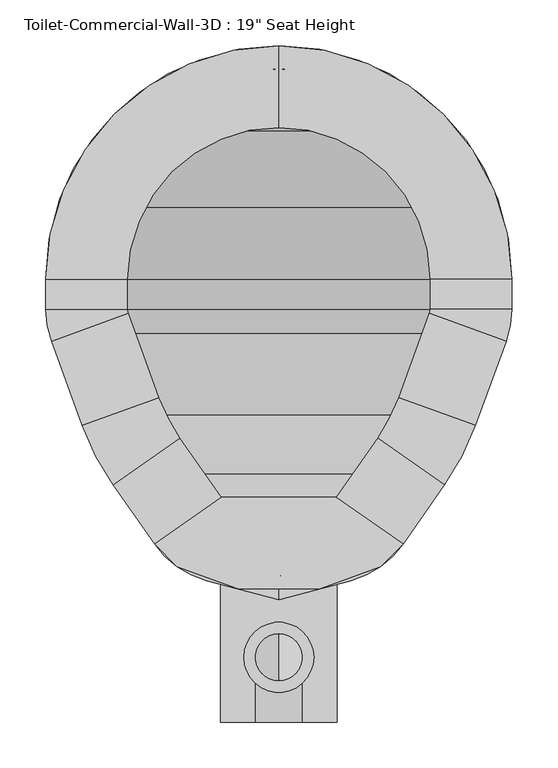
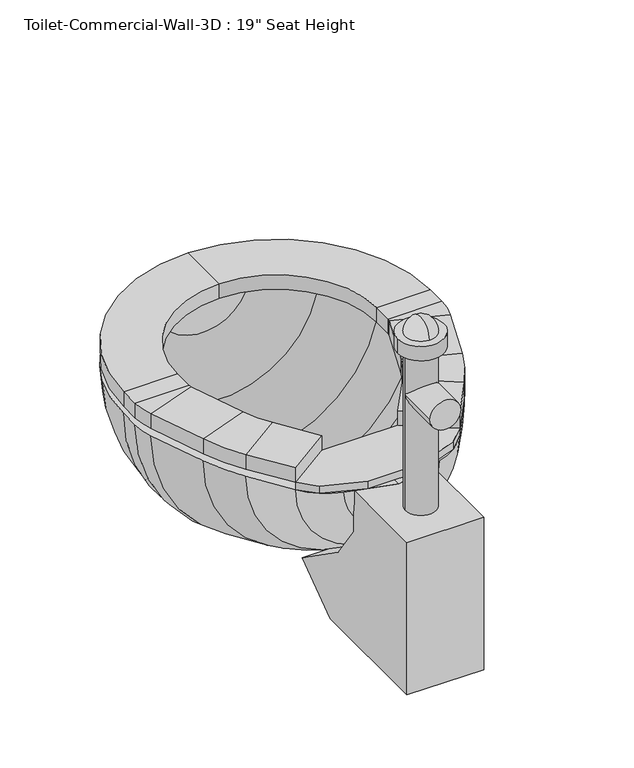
"""IFC4 building model written with IfcOpenShell, lengths in millimetres: flow terminal geometry."""

from ifc_helpers import new_model, si_unit, point, frame, frame_2d, origin, place, context, project, spatial, polyline, circle_curve, ellipse_curve, trimmed, segment, composite_curve, outline, extrude, source, transform, mapped, element, save
from ifc_brep_helpers import plane_surface, cylinder_surface, revolved_surface, advanced_brep


def flow_terminal_ad1f76ec(model_context):
    return source(origin(), model_context, "Body", "SolidModel", [
        extrude(outline(polyline([(467.7541169, 322.8222495), (540.5767337, 271.8313043), (515.6262519, 246.8808226), (449.563909, 222.8360961), (360.2423986, 222.8360961), (294.1800557, 246.8808226), (269.229574, 271.8313043), (342.0521907, 322.8222495), (467.7541169, 322.8222495)])), frame((0.0, 0.0, 444.5), z_axis=(0.0, 0.0, 1.0), x_axis=(1.0, 0.0, 0.0)), (0.0, 0.0, 1.0), 12.7),
        advanced_brep(
        [(467.7541169, 322.8222495, 457.2), (540.5767337, 271.8313043, 457.2), (540.5767337, 271.8313043, 482.6), (467.7541169, 322.8222495, 482.6), (512.8583992, 387.2378403, 457.2), (585.6810159, 336.2468951, 457.2), (585.6810159, 336.2468951, 482.6), (512.8583992, 387.2378403, 482.6), (619.360053, 400.9437234, 457.2), (535.821379, 431.3493141, 457.2), (619.360053, 400.9437234, 482.6), (535.821379, 431.3493141, 482.6), (569.2372501, 523.1586654, 457.2), (652.7759241, 492.7530747, 457.2), (652.7759241, 492.7530747, 482.6), (569.2372501, 523.1586654, 482.6), (658.9031538, 527.5023212, 457.2), (570.0031538, 527.5023212, 457.2), (658.9031538, 527.5023212, 482.6), (570.0031538, 527.5023212, 482.6), (570.0031538, 560.3875, 457.2), (658.9031538, 560.3875, 457.2), (658.9031538, 560.3875, 482.6), (570.0031538, 560.3875, 482.6), (404.9031538, 814.3875, 457.2), (404.9031538, 725.4875, 457.2), (404.9031538, 814.3875, 482.6), (404.9031538, 725.4875, 482.6), (150.9031538, 560.3875, 457.2), (239.8031538, 560.3875, 457.2), (150.9031538, 560.3875, 482.6), (239.8031538, 560.3875, 482.6), (239.8031538, 527.5023212, 457.2), (150.9031538, 527.5023212, 457.2), (150.9031538, 527.5023212, 482.6), (239.8031538, 527.5023212, 482.6), (157.0303835, 492.7530747, 457.2), (240.5690575, 523.1586654, 457.2), (157.0303835, 492.7530747, 482.6), (240.5690575, 523.1586654, 482.6), (273.9849286, 431.3493141, 457.2), (190.4462546, 400.9437234, 457.2), (190.4462546, 400.9437234, 482.6), (273.9849286, 431.3493141, 482.6), (224.1252917, 336.2468951, 457.2), (296.9479084, 387.2378403, 457.2), (224.1252917, 336.2468951, 482.6), (296.9479084, 387.2378403, 482.6), (342.0521907, 322.8222495, 457.2), (342.0521907, 322.8222495, 482.6), (269.229574, 271.8313043, 482.6), (269.229574, 271.8313043, 457.2)],
        [
            (0, 1),
            (1, 2),
            (2, 3),
            (3, 0),
            (0, 4),
            (4, 5),
            (5, 1),
            (5, 6),
            (6, 2),
            (6, 7),
            (7, 3),
            (7, 4),
            (8, 5, circle_curve(frame((356.8099347, 496.5041514, 457.2), z_axis=(0.0, 0.0, -1.0), x_axis=(0.81915204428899, -0.5735764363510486, 0.0)), 279.4)),
            (4, 9, circle_curve(frame((356.8099347, 496.5041514, 457.2), z_axis=(0.0, 0.0, 1.0), x_axis=(0.81915204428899, -0.5735764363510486, 0.0)), 190.5)),
            (9, 8),
            (10, 6, circle_curve(frame((356.8099347, 496.5041514, 482.6), z_axis=(0.0, 0.0, -1.0), x_axis=(0.81915204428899, -0.5735764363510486, 0.0)), 279.4)),
            (8, 10),
            (11, 7, circle_curve(frame((356.8099347, 496.5041514, 482.6), z_axis=(0.0, 0.0, -1.0), x_axis=(0.81915204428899, -0.5735764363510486, 0.0)), 190.5)),
            (10, 11),
            (11, 9),
            (9, 12),
            (12, 13),
            (13, 8),
            (13, 14),
            (14, 10),
            (14, 15),
            (15, 11),
            (15, 12),
            (16, 13, circle_curve(frame((557.3031538, 527.5023212, 457.2), z_axis=(0.0, 0.0, -1.0), x_axis=(0.9396926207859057, -0.3420201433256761, 0.0)), 101.6)),
            (12, 17, circle_curve(frame((557.3031538, 527.5023212, 457.2), z_axis=(0.0, 0.0, 1.0), x_axis=(0.9396926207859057, -0.3420201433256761, 0.0)), 12.7)),
            (17, 16),
            (18, 14, circle_curve(frame((557.3031538, 527.5023212, 482.6), z_axis=(0.0, 0.0, -1.0), x_axis=(0.9396926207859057, -0.3420201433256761, 0.0)), 101.6)),
            (16, 18),
            (19, 15, circle_curve(frame((557.3031538, 527.5023212, 482.6), z_axis=(0.0, 0.0, -1.0), x_axis=(0.9396926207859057, -0.3420201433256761, 0.0)), 12.7)),
            (18, 19),
            (19, 17),
            (17, 20),
            (20, 21),
            (21, 16),
            (21, 22),
            (22, 18),
            (22, 23),
            (23, 19),
            (23, 20),
            (24, 21, circle_curve(frame((404.9031538, 560.3875, 457.2), z_axis=(0.0, 0.0, -1.0), x_axis=(1.0, 0.0, 0.0)), 254.0)),
            (20, 25, circle_curve(frame((404.9031538, 560.3875, 457.2), z_axis=(0.0, 0.0, 1.0), x_axis=(1.0, 0.0, 0.0)), 165.1)),
            (25, 24),
            (26, 22, circle_curve(frame((404.9031538, 560.3875, 482.6), z_axis=(0.0, 0.0, -1.0), x_axis=(1.0, 0.0, 0.0)), 254.0)),
            (24, 26),
            (27, 23, circle_curve(frame((404.9031538, 560.3875, 482.6), z_axis=(0.0, 0.0, -1.0), x_axis=(1.0, 0.0, 0.0)), 165.1)),
            (26, 27),
            (27, 25),
            (28, 24, circle_curve(frame((404.9031538, 560.3875, 457.2), z_axis=(0.0, 0.0, -1.0), x_axis=(0.0, 1.0, 0.0)), 254.0)),
            (25, 29, circle_curve(frame((404.9031538, 560.3875, 457.2), z_axis=(0.0, 0.0, 1.0), x_axis=(0.0, 1.0, 0.0)), 165.1)),
            (29, 28),
            (30, 26, circle_curve(frame((404.9031538, 560.3875, 482.6), z_axis=(0.0, 0.0, -1.0), x_axis=(0.0, 1.0, 0.0)), 254.0)),
            (28, 30),
            (31, 27, circle_curve(frame((404.9031538, 560.3875, 482.6), z_axis=(0.0, 0.0, -1.0), x_axis=(0.0, 1.0, 0.0)), 165.1)),
            (30, 31),
            (31, 29),
            (29, 32),
            (32, 33),
            (33, 28),
            (33, 34),
            (34, 30),
            (34, 35),
            (35, 31),
            (35, 32),
            (36, 33, circle_curve(frame((252.5031538, 527.5023212, 457.2), z_axis=(0.0, 0.0, -1.0), x_axis=(-1.0, 0.0, 0.0)), 101.6)),
            (32, 37, circle_curve(frame((252.5031538, 527.5023212, 457.2), z_axis=(0.0, 0.0, 1.0), x_axis=(-1.0, 0.0, 0.0)), 12.7)),
            (37, 36),
            (38, 34, circle_curve(frame((252.5031538, 527.5023212, 482.6), z_axis=(0.0, 0.0, -1.0), x_axis=(-1.0, 0.0, 0.0)), 101.6)),
            (36, 38),
            (39, 35, circle_curve(frame((252.5031538, 527.5023212, 482.6), z_axis=(0.0, 0.0, -1.0), x_axis=(-1.0, 0.0, 0.0)), 12.7)),
            (38, 39),
            (39, 37),
            (37, 40),
            (40, 41),
            (41, 36),
            (41, 42),
            (42, 38),
            (42, 43),
            (43, 39),
            (43, 40),
            (44, 41, circle_curve(frame((452.9963729, 496.5041514, 457.2), z_axis=(0.0, 0.0, -1.0), x_axis=(-0.939692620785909, -0.3420201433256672, 0.0)), 279.4)),
            (40, 45, circle_curve(frame((452.9963729, 496.5041514, 457.2), z_axis=(0.0, 0.0, 1.0), x_axis=(-0.939692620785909, -0.3420201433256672, 0.0)), 190.5)),
            (45, 44),
            (46, 42, circle_curve(frame((452.9963729, 496.5041514, 482.6), z_axis=(0.0, 0.0, -1.0), x_axis=(-0.939692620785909, -0.3420201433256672, 0.0)), 279.4)),
            (44, 46),
            (47, 43, circle_curve(frame((452.9963729, 496.5041514, 482.6), z_axis=(0.0, 0.0, -1.0), x_axis=(-0.939692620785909, -0.3420201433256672, 0.0)), 190.5)),
            (46, 47),
            (47, 45),
            (48, 49),
            (49, 50),
            (50, 51),
            (51, 48),
            (45, 48),
            (51, 44),
            (50, 46),
            (49, 47),
        ],
        [
            plane_surface(frame((540.5767337, 271.8313043, 541.2203184), z_axis=(-0.5735764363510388, -0.8191520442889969, 0.0), x_axis=(0.8191520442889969, -0.5735764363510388, 0.0))),
            plane_surface(frame((467.7541169, 322.8222495, 457.2), z_axis=(0.0, 0.0, -1.0), x_axis=(0.5735764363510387, 0.8191520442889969, 0.0))),
            plane_surface(frame((540.5767337, 271.8313043, 457.2), z_axis=(0.8191520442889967, -0.5735764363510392, 0.0), x_axis=(0.5735764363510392, 0.8191520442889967, 0.0))),
            plane_surface(frame((540.5767337, 271.8313043, 482.6), z_axis=(0.0, 0.0, 1.0), x_axis=(0.5735764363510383, 0.8191520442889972, 0.0))),
            plane_surface(frame((467.7541169, 322.8222495, 482.6), z_axis=(-0.8191520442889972, 0.5735764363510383, 0.0), x_axis=(0.5735764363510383, 0.8191520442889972, 0.0))),
            plane_surface(frame((356.8099347, 496.5041514, 457.2), z_axis=(0.0, 0.0, -1.0), x_axis=(0.81915204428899, -0.5735764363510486, 0.0))),
            cylinder_surface(frame((356.8099347, 496.5041514, 444.5), z_axis=(0.0, 0.0, 1.0), x_axis=(0.81915204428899, -0.5735764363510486, 0.0)), 279.4),
            plane_surface(frame((356.8099347, 496.5041514, 482.6), z_axis=(0.0, 0.0, 1.0), x_axis=(0.81915204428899, -0.5735764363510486, 0.0))),
            revolved_surface(polyline([(512.8583991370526, 387.2378402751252, 482.6), (512.8583991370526, 387.2378402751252, 457.2)]), (356.8099347, 496.5041514, 444.5), (0.0, 0.0, 1.0)),
            plane_surface(frame((535.821379, 431.3493141, 457.2), z_axis=(0.0, 0.0, -1.0), x_axis=(0.3420201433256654, 0.9396926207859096, 0.0))),
            plane_surface(frame((619.360053, 400.9437234, 457.2), z_axis=(0.9396926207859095, -0.34202014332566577, 0.0), x_axis=(0.34202014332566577, 0.9396926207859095, 0.0))),
            plane_surface(frame((619.360053, 400.9437234, 482.6), z_axis=(0.0, 0.0, 1.0000000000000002), x_axis=(0.34202014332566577, 0.9396926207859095, 0.0))),
            plane_surface(frame((535.821379, 431.3493141, 482.6), z_axis=(-0.9396926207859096, 0.3420201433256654, 0.0), x_axis=(0.3420201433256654, 0.9396926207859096, 0.0))),
            plane_surface(frame((557.3031538, 527.5023212, 457.2), z_axis=(0.0, 0.0, -1.0000000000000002), x_axis=(0.9396926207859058, -0.34202014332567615, 0.0))),
            cylinder_surface(frame((557.3031538, 527.5023212, 444.5), z_axis=(0.0, 0.0, 1.0), x_axis=(0.9396926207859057, -0.3420201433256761, 0.0)), 101.6),
            plane_surface(frame((557.3031538, 527.5023212, 482.6), z_axis=(0.0, 0.0, 1.0000000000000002), x_axis=(0.9396926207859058, -0.34202014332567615, 0.0))),
            revolved_surface(polyline([(569.237250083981, 523.1586653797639, 482.6), (569.237250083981, 523.1586653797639, 457.2)]), (557.3031538, 527.5023212, 444.5), (0.0, 0.0, 1.0)),
            plane_surface(frame((570.0031538, 527.5023212, 457.2), z_axis=(0.0, 0.0, -1.0), x_axis=(0.0, 1.0, 0.0))),
            plane_surface(frame((658.9031538, 527.5023212, 457.2), z_axis=(1.0, 0.0, 0.0), x_axis=(0.0, 1.0, 0.0))),
            plane_surface(frame((658.9031538, 527.5023212, 482.6), z_axis=(0.0, 0.0, 1.0), x_axis=(0.0, 1.0, 0.0))),
            plane_surface(frame((570.0031538, 527.5023212, 482.6), z_axis=(-1.0, 0.0, 0.0), x_axis=(0.0, 1.0, 0.0))),
            plane_surface(frame((404.9031538, 560.3875, 457.2), z_axis=(0.0, 0.0, -1.0), x_axis=(1.0, 0.0, 0.0))),
            cylinder_surface(frame((404.9031538, 560.3875, 444.5), z_axis=(0.0, 0.0, 1.0), x_axis=(1.0, 0.0, 0.0)), 254.0),
            plane_surface(frame((404.9031538, 560.3875, 482.6), z_axis=(0.0, 0.0, 1.0), x_axis=(1.0, 0.0, 0.0))),
            revolved_surface(polyline([(570.0031538, 560.3875, 482.6), (570.0031538, 560.3875, 457.2)]), (404.9031538, 560.3875, 444.5), (0.0, 0.0, 1.0)),
            plane_surface(frame((404.9031538, 560.3875, 457.2), z_axis=(0.0, 0.0, -1.0), x_axis=(0.0, 1.0, 0.0))),
            cylinder_surface(frame((404.9031538, 560.3875, 444.5), z_axis=(0.0, 0.0, 1.0), x_axis=(0.0, 1.0, 0.0)), 254.0),
            plane_surface(frame((404.9031538, 560.3875, 482.6), z_axis=(0.0, 0.0, 1.0), x_axis=(0.0, 1.0, 0.0))),
            revolved_surface(polyline([(404.9031538, 725.4875000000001, 482.6), (404.9031538, 725.4875000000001, 457.2)]), (404.9031538, 560.3875, 444.5), (0.0, 0.0, 1.0)),
            plane_surface(frame((239.8031538, 560.3875, 457.2), z_axis=(0.0, 0.0, -1.0), x_axis=(0.0, -1.0, 0.0))),
            plane_surface(frame((150.9031538, 560.3875, 457.2), z_axis=(-1.0, 0.0, 0.0), x_axis=(0.0, -1.0, 0.0))),
            plane_surface(frame((150.9031538, 560.3875, 482.6), z_axis=(0.0, 0.0, 1.0), x_axis=(0.0, -1.0, 0.0))),
            plane_surface(frame((239.8031538, 560.3875, 482.6), z_axis=(1.0, 0.0, 0.0), x_axis=(0.0, -1.0, 0.0))),
            plane_surface(frame((252.5031538, 527.5023212, 457.2), z_axis=(0.0, 0.0, -1.0), x_axis=(-1.0, 0.0, 0.0))),
            cylinder_surface(frame((252.5031538, 527.5023212, 444.5), z_axis=(0.0, 0.0, 1.0), x_axis=(-1.0, 0.0, 0.0)), 101.6),
            plane_surface(frame((252.5031538, 527.5023212, 482.6), z_axis=(0.0, 0.0, 1.0), x_axis=(-1.0, 0.0, 0.0))),
            revolved_surface(polyline([(239.80315380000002, 527.5023212, 482.6), (239.80315380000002, 527.5023212, 457.2)]), (252.5031538, 527.5023212, 444.5), (0.0, 0.0, 1.0)),
            plane_surface(frame((240.5690575, 523.1586654, 457.2), z_axis=(0.0, 0.0, -1.0), x_axis=(0.34202014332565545, -0.9396926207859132, 0.0))),
            plane_surface(frame((157.0303835, 492.7530747, 457.2), z_axis=(-0.9396926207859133, -0.3420201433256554, 0.0), x_axis=(0.3420201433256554, -0.9396926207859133, 0.0))),
            plane_surface(frame((157.0303835, 492.7530747, 482.6), z_axis=(0.0, 0.0, 1.0), x_axis=(0.342020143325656, -0.9396926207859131, 0.0))),
            plane_surface(frame((240.5690575, 523.1586654, 482.6), z_axis=(0.9396926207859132, 0.34202014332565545, 0.0), x_axis=(0.34202014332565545, -0.9396926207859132, 0.0))),
            plane_surface(frame((452.9963729, 496.5041514, 457.2), z_axis=(0.0, 0.0, -1.0), x_axis=(-0.939692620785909, -0.3420201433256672, 0.0))),
            cylinder_surface(frame((452.9963729, 496.5041514, 444.5), z_axis=(0.0, 0.0, 1.0), x_axis=(-0.939692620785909, -0.3420201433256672, 0.0)), 279.4),
            plane_surface(frame((452.9963729, 496.5041514, 482.6), z_axis=(0.0, 0.0, 1.0), x_axis=(-0.939692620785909, -0.3420201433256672, 0.0))),
            revolved_surface(polyline([(273.98492864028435, 431.3493140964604, 482.6), (273.98492864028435, 431.3493140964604, 457.2)]), (452.9963729, 496.5041514, 444.5), (0.0, 0.0, 1.0)),
            plane_surface(frame((269.229574, 271.8313043, 347.7796816), z_axis=(0.5735764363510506, -0.8191520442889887, 0.0), x_axis=(0.8191520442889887, 0.5735764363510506, 0.0))),
            plane_surface(frame((296.9479084, 387.2378403, 457.2), z_axis=(0.0, 0.0, -1.0000000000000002), x_axis=(0.5735764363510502, -0.819152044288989, 0.0))),
            plane_surface(frame((224.1252917, 336.2468951, 457.2), z_axis=(-0.8191520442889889, -0.5735764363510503, 0.0), x_axis=(0.5735764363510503, -0.8191520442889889, 0.0))),
            plane_surface(frame((224.1252917, 336.2468951, 482.6), z_axis=(0.0, 0.0, 1.0), x_axis=(0.5735764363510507, -0.8191520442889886, 0.0))),
            plane_surface(frame((296.9479084, 387.2378403, 482.6), z_axis=(0.8191520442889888, 0.5735764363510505, 0.0), x_axis=(0.5735764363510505, -0.8191520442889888, 0.0))),
        ],
        [
            (0, [[1, 2, 3, 4]]),
            (1, [[-1, 5, 6, 7]]),
            (2, [[-2, -7, 8, 9]]),
            (3, [[-3, -9, 10, 11]]),
            (4, [[-4, -11, 12, -5]]),
            (5, [[13, -6, 14, 15]]),
            (6, [[16, -8, -13, 17]]),
            (7, [[18, -10, -16, 19]]),
            (8, [[-14, -12, -18, 20]]),
            (9, [[-15, 21, 22, 23]]),
            (10, [[-17, -23, 24, 25]]),
            (11, [[-19, -25, 26, 27]]),
            (12, [[-20, -27, 28, -21]]),
            (13, [[29, -22, 30, 31]]),
            (14, [[32, -24, -29, 33]]),
            (15, [[34, -26, -32, 35]]),
            (16, [[-30, -28, -34, 36]]),
            (17, [[-31, 37, 38, 39]]),
            (18, [[-33, -39, 40, 41]]),
            (19, [[-35, -41, 42, 43]]),
            (20, [[-36, -43, 44, -37]]),
            (21, [[45, -38, 46, 47]]),
            (22, [[48, -40, -45, 49]]),
            (23, [[50, -42, -48, 51]]),
            (24, [[-46, -44, -50, 52]]),
            (25, [[53, -47, 54, 55]]),
            (26, [[56, -49, -53, 57]]),
            (27, [[58, -51, -56, 59]]),
            (28, [[-54, -52, -58, 60]]),
            (29, [[-55, 61, 62, 63]]),
            (30, [[-57, -63, 64, 65]]),
            (31, [[-59, -65, 66, 67]]),
            (32, [[-60, -67, 68, -61]]),
            (33, [[69, -62, 70, 71]]),
            (34, [[72, -64, -69, 73]]),
            (35, [[74, -66, -72, 75]]),
            (36, [[-70, -68, -74, 76]]),
            (37, [[-71, 77, 78, 79]]),
            (38, [[-73, -79, 80, 81]]),
            (39, [[-75, -81, 82, 83]]),
            (40, [[-76, -83, 84, -77]]),
            (41, [[85, -78, 86, 87]]),
            (42, [[88, -80, -85, 89]]),
            (43, [[90, -82, -88, 91]]),
            (44, [[-86, -84, -90, 92]]),
            (45, [[93, 94, 95, 96]]),
            (46, [[-87, 97, -96, 98]]),
            (47, [[-89, -98, -95, 99]]),
            (48, [[-91, -99, -94, 100]]),
            (49, [[-92, -100, -93, -97]]),
        ],
    ),
        advanced_brep(
        [(491.7762702, 799.0694257, 444.5), (404.9031538, 814.3875, 444.5), (404.9031538, 788.9875, 444.5), (483.0889586, 775.2012331, 444.5), (566.547764, 722.0321102, 444.5), (619.7168869, 638.5733048, 444.5), (633.5031538, 560.3875, 444.5), (633.5031538, 527.5023212, 444.5), (628.9077315, 501.4403863, 444.5), (596.6355667, 412.7733422, 444.5), (562.9565296, 348.0765139, 444.5), (525.0728964, 293.9730786, 444.5), (468.1430637, 254.1103806, 444.5), (404.9031538, 237.1652978, 444.5), (404.9031538, 210.8692829, 444.5), (483.6469009, 231.9686063, 444.5), (540.5767337, 271.8313043, 444.5), (585.6810159, 336.2468951, 444.5), (619.360053, 400.9437234, 444.5), (652.7759241, 492.7530747, 444.5), (658.9031538, 527.5023212, 444.5), (658.9031538, 560.3875, 444.5), (643.5850795, 647.2606164, 444.5), (584.5082762, 739.9926224, 444.5), (318.0300374, 799.0694257, 444.5), (225.2980314, 739.9926224, 444.5), (166.2212281, 647.2606164, 444.5), (150.9031538, 560.3875, 444.5), (150.9031538, 527.5023212, 444.5), (157.0303835, 492.7530747, 444.5), (190.4462546, 400.9437234, 444.5), (224.1252917, 336.2468951, 444.5), (269.229574, 271.8313043, 444.5), (326.1594067, 231.9686063, 444.5), (341.663244, 254.1103806, 444.5), (284.7334112, 293.9730786, 444.5), (246.849778, 348.0765139, 444.5), (213.1707409, 412.7733422, 444.5), (180.8985761, 501.4403863, 444.5), (176.3031538, 527.5023212, 444.5), (176.3031538, 560.3875, 444.5), (190.0894207, 638.5733048, 444.5), (243.2585436, 722.0321102, 444.5), (326.7173491, 775.2012331, 444.5)],
        [
            (0, 1, circle_curve(frame((404.9031538, 560.3875, 444.5), z_axis=(0.0, 0.0, 1.0), x_axis=(1.0, 0.0, 0.0)), 254.0)),
            (1, 2),
            (2, 3, circle_curve(frame((404.9031538, 560.3875, 444.5), z_axis=(0.0, 0.0, -1.0), x_axis=(1.0, 0.0, 0.0)), 228.6)),
            (3, 4, circle_curve(frame((404.9031538, 560.3875, 444.5), z_axis=(0.0, 0.0, -1.0), x_axis=(1.0, 0.0, 0.0)), 228.6)),
            (4, 5, circle_curve(frame((404.9031538, 560.3875, 444.5), z_axis=(0.0, 0.0, -1.0), x_axis=(1.0, 0.0, 0.0)), 228.6)),
            (5, 6, circle_curve(frame((404.9031538, 560.3875, 444.5), z_axis=(0.0, 0.0, -1.0), x_axis=(1.0, 0.0, 0.0)), 228.6)),
            (6, 7),
            (7, 8, circle_curve(frame((557.3031538, 527.5023212, 444.5), z_axis=(0.0, 0.0, -1.0), x_axis=(1.0, 0.0, 0.0)), 76.2)),
            (8, 9),
            (9, 10, circle_curve(frame((334.0854485, 508.3337703, 444.5), z_axis=(0.0, 0.0, -1.0), x_axis=(1.0, 0.0, 0.0)), 279.4)),
            (10, 11),
            (11, 12, circle_curve(frame((441.8470487, 352.2484446, 444.5), z_axis=(0.0, 0.0, -1.0), x_axis=(1.0, 0.0, 0.0)), 101.6)),
            (12, 13),
            (13, 14),
            (14, 15),
            (15, 16, circle_curve(frame((457.350886, 330.1066703, 444.5), z_axis=(0.0, 0.0, 1.0), x_axis=(1.0, 0.0, 0.0)), 101.6)),
            (16, 17),
            (17, 18, circle_curve(frame((356.8099347, 496.5041514, 444.5), z_axis=(0.0, 0.0, 1.0), x_axis=(1.0, 0.0, 0.0)), 279.4)),
            (18, 19),
            (19, 20, circle_curve(frame((557.3031538, 527.5023212, 444.5), z_axis=(0.0, 0.0, 1.0), x_axis=(1.0, 0.0, 0.0)), 101.6)),
            (20, 21),
            (21, 22, circle_curve(frame((404.9031538, 560.3875, 444.5), z_axis=(0.0, 0.0, 1.0), x_axis=(1.0, 0.0, 0.0)), 254.0)),
            (22, 23, circle_curve(frame((404.9031538, 560.3875, 444.5), z_axis=(0.0, 0.0, 1.0), x_axis=(1.0, 0.0, 0.0)), 254.0)),
            (23, 0, circle_curve(frame((404.9031538, 560.3875, 444.5), z_axis=(0.0, 0.0, 1.0), x_axis=(1.0, 0.0, 0.0)), 254.0)),
            (24, 25, circle_curve(frame((404.9031538, 560.3875, 444.5), z_axis=(0.0, 0.0, 1.0), x_axis=(-1.0, 0.0, 0.0)), 254.0)),
            (25, 26, circle_curve(frame((404.9031538, 560.3875, 444.5), z_axis=(0.0, 0.0, 1.0), x_axis=(-1.0, 0.0, 0.0)), 254.0)),
            (26, 27, circle_curve(frame((404.9031538, 560.3875, 444.5), z_axis=(0.0, 0.0, 1.0), x_axis=(-1.0, 0.0, 0.0)), 254.0)),
            (27, 28),
            (28, 29, circle_curve(frame((252.5031538, 527.5023212, 444.5), z_axis=(0.0, 0.0, 1.0), x_axis=(-1.0, 0.0, 0.0)), 101.6)),
            (29, 30),
            (30, 31, circle_curve(frame((452.9963729, 496.5041514, 444.5), z_axis=(0.0, 0.0, 1.0), x_axis=(-1.0, 0.0, 0.0)), 279.4)),
            (31, 32),
            (32, 33, circle_curve(frame((352.4554217, 330.1066703, 444.5), z_axis=(0.0, 0.0, 1.0), x_axis=(-1.0, 0.0, 0.0)), 101.6)),
            (33, 14),
            (13, 34),
            (34, 35, circle_curve(frame((367.9592589, 352.2484446, 444.5), z_axis=(0.0, 0.0, -1.0), x_axis=(-1.0, 0.0, 0.0)), 101.6)),
            (35, 36),
            (36, 37, circle_curve(frame((475.7208592, 508.3337703, 444.5), z_axis=(0.0, 0.0, -1.0), x_axis=(-1.0, 0.0, 0.0)), 279.4)),
            (37, 38),
            (38, 39, circle_curve(frame((252.5031538, 527.5023212, 444.5), z_axis=(0.0, 0.0, -1.0), x_axis=(-1.0, 0.0, 0.0)), 76.2)),
            (39, 40),
            (40, 41, circle_curve(frame((404.9031538, 560.3875, 444.5), z_axis=(0.0, 0.0, -1.0), x_axis=(-1.0, 0.0, 0.0)), 228.6)),
            (41, 42, circle_curve(frame((404.9031538, 560.3875, 444.5), z_axis=(0.0, 0.0, -1.0), x_axis=(-1.0, 0.0, 0.0)), 228.6)),
            (42, 43, circle_curve(frame((404.9031538, 560.3875, 444.5), z_axis=(0.0, 0.0, -1.0), x_axis=(-1.0, 0.0, 0.0)), 228.6)),
            (43, 2, circle_curve(frame((404.9031538, 560.3875, 444.5), z_axis=(0.0, 0.0, -1.0), x_axis=(-1.0, 0.0, 0.0)), 228.6)),
            (1, 24, circle_curve(frame((404.9031538, 560.3875, 444.5), z_axis=(0.0, 0.0, 1.0), x_axis=(-1.0, 0.0, 0.0)), 254.0)),
            (0, 24, circle_curve(frame((404.9031538, 799.0694257, 444.5), z_axis=(0.0, 1.0, 0.0), x_axis=(1.0, 0.0, 0.0)), 86.8731164)),
            (43, 3, circle_curve(frame((404.9031538, 775.2012331, 444.5), z_axis=(0.0, -1.0, 0.0), x_axis=(1.0, 0.0, 0.0)), 78.1858048)),
            (42, 4, circle_curve(frame((404.9031538, 722.0321102, 444.5), z_axis=(0.0, -1.0, 0.0), x_axis=(1.0, 0.0, 0.0)), 161.6446102)),
            (41, 5, circle_curve(frame((404.9031538, 638.5733048, 444.5), z_axis=(0.0, -1.0, 0.0), x_axis=(1.0, 0.0, 0.0)), 214.8137331)),
            (40, 6, circle_curve(frame((404.9031538, 560.3875, 444.5), z_axis=(0.0, -1.0, 0.0), x_axis=(1.0, 0.0, 0.0)), 228.6)),
            (39, 7, circle_curve(frame((404.9031538, 527.5023212, 444.5), z_axis=(0.0, -1.0, 0.0), x_axis=(1.0, 0.0, 0.0)), 228.6)),
            (38, 8, circle_curve(frame((404.9031538, 501.4403863, 444.5), z_axis=(0.0, -1.0, 0.0), x_axis=(1.0, 0.0, 0.0)), 224.0045777)),
            (37, 9, circle_curve(frame((404.9031538, 412.7733422, 444.5), z_axis=(0.0, -1.0, 0.0), x_axis=(1.0, 0.0, 0.0)), 191.7324129)),
            (36, 10, circle_curve(frame((404.9031538, 348.0765139, 444.5), z_axis=(0.0, -1.0, 0.0), x_axis=(1.0, 0.0, 0.0)), 158.0533758)),
            (35, 11, circle_curve(frame((404.9031538, 293.9730786, 444.5), z_axis=(0.0, -1.0, 0.0), x_axis=(1.0, 0.0, 0.0)), 120.1697426)),
            (34, 12, circle_curve(frame((404.9031538, 254.1103806, 444.5), z_axis=(0.0, -1.0, 0.0), x_axis=(1.0, 0.0, 0.0)), 63.2399099)),
            (33, 15, circle_curve(frame((404.9031538, 231.9686063, 444.5), z_axis=(0.0, -1.0, 0.0), x_axis=(1.0, 0.0, 0.0)), 78.7437471)),
            (32, 16, circle_curve(frame((404.9031538, 271.8313043, 444.5), z_axis=(0.0, -1.0, 0.0), x_axis=(1.0, 0.0, 0.0)), 135.6735798)),
            (31, 17, circle_curve(frame((404.9031538, 336.2468951, 444.5), z_axis=(0.0, -1.0, 0.0), x_axis=(1.0, 0.0, 0.0)), 180.7778621)),
            (30, 18, circle_curve(frame((404.9031538, 400.9437234, 444.5), z_axis=(0.0, -1.0, 0.0), x_axis=(1.0, 0.0, 0.0)), 214.4568992)),
            (29, 19, circle_curve(frame((404.9031538, 492.7530747, 444.5), z_axis=(0.0, -1.0, 0.0), x_axis=(1.0, 0.0, 0.0)), 247.8727703)),
            (28, 20, circle_curve(frame((404.9031538, 527.5023212, 444.5), z_axis=(0.0, -1.0, 0.0), x_axis=(1.0, 0.0, 0.0)), 254.0)),
            (27, 21, circle_curve(frame((404.9031538, 560.3875, 444.5), z_axis=(0.0, -1.0, 0.0), x_axis=(1.0, 0.0, 0.0)), 254.0)),
            (26, 22, circle_curve(frame((404.9031538, 647.2606164, 444.5), z_axis=(0.0, -1.0, 0.0), x_axis=(1.0, 0.0, 0.0)), 238.6819257)),
            (25, 23, circle_curve(frame((404.9031538, 739.9926224, 444.5), z_axis=(0.0, -1.0, 0.0), x_axis=(1.0, 0.0, 0.0)), 179.6051224)),
        ],
        [
            plane_surface(frame((404.9031538, 919.5977448, 444.5), z_axis=(0.0, 0.0, 1.0), x_axis=(1.0, 0.0, 0.0))),
            plane_surface(frame((404.9031538, 919.5977448, 444.5), z_axis=(0.0, 0.0, 1.0), x_axis=(-1.0, 0.0, 0.0))),
            revolved_surface(trimmed(ellipse_curve(frame((404.9031538, 560.3875, 444.5), z_axis=(0.0, 0.0, 1.0), x_axis=(1.0, 0.0, 0.0)), 254.0, 254.0), [point((491.7762702, 799.0694257, 444.5))], [point((404.9031538, 814.3875, 444.5))], True, "CARTESIAN"), (404.9031538, 919.5977448, 444.5), (0.0, 1.0, 0.0)),
            revolved_surface(trimmed(ellipse_curve(frame((404.9031538, 560.3875, 444.5), z_axis=(0.0, 0.0, -1.0), x_axis=(1.0, 0.0, 0.0)), 228.6, 228.6), [point((404.9031538, 788.9875, 444.5))], [point((483.0889586, 775.2012331, 444.5))], True, "CARTESIAN"), (404.9031538, 919.5977448, 444.5), (0.0, 1.0, 0.0)),
            revolved_surface(trimmed(ellipse_curve(frame((404.9031538, 560.3875, 444.5), z_axis=(0.0, 0.0, -1.0), x_axis=(1.0, 0.0, 0.0)), 228.6, 228.6), [point((483.0889586, 775.2012331, 444.5))], [point((566.547764, 722.0321102, 444.5))], True, "CARTESIAN"), (404.9031538, 919.5977448, 444.5), (0.0, 1.0, 0.0)),
            revolved_surface(trimmed(ellipse_curve(frame((404.9031538, 560.3875, 444.5), z_axis=(0.0, 0.0, -1.0), x_axis=(1.0, 0.0, 0.0)), 228.6, 228.6), [point((566.547764, 722.0321102, 444.5))], [point((619.7168869, 638.5733048, 444.5))], True, "CARTESIAN"), (404.9031538, 919.5977448, 444.5), (0.0, 1.0, 0.0)),
            revolved_surface(trimmed(ellipse_curve(frame((404.9031538, 560.3875, 444.5), z_axis=(0.0, 0.0, -1.0), x_axis=(1.0, 0.0, 0.0)), 228.6, 228.6), [point((619.7168869, 638.5733048, 444.5))], [point((633.5031538, 560.3875, 444.5))], True, "CARTESIAN"), (404.9031538, 919.5977448, 444.5), (0.0, 1.0, 0.0)),
            revolved_surface(polyline([(633.5031538, 560.3875, 444.5), (633.5031538, 527.5023212, 444.5)]), (404.9031538, 919.5977448, 444.5), (0.0, 1.0, 0.0)),
            revolved_surface(trimmed(ellipse_curve(frame((557.3031538, 527.5023212, 444.5), z_axis=(0.0, 0.0, -1.0), x_axis=(1.0, 0.0, 0.0)), 76.2, 76.2), [point((633.5031538, 527.5023212, 444.5))], [point((628.9077315, 501.4403863, 444.5))], True, "CARTESIAN"), (404.9031538, 919.5977448, 444.5), (0.0, 1.0, 0.0)),
            revolved_surface(polyline([(628.9077315, 501.4403863, 444.5), (596.6355667, 412.7733422, 444.5)]), (404.9031538, 919.5977448, 444.5), (0.0, 1.0, 0.0)),
            revolved_surface(trimmed(ellipse_curve(frame((334.0854485, 508.3337703, 444.5), z_axis=(0.0, 0.0, -1.0), x_axis=(1.0, 0.0, 0.0)), 279.4, 279.4), [point((596.6355667, 412.7733422, 444.5))], [point((562.9565296, 348.0765139, 444.5))], True, "CARTESIAN"), (404.9031538, 919.5977448, 444.5), (0.0, 1.0, 0.0)),
            revolved_surface(polyline([(562.9565296, 348.0765139, 444.5), (525.0728964, 293.9730786, 444.5)]), (404.9031538, 919.5977448, 444.5), (0.0, 1.0, 0.0)),
            revolved_surface(trimmed(ellipse_curve(frame((441.8470487, 352.2484446, 444.5), z_axis=(0.0, 0.0, -1.0), x_axis=(1.0, 0.0, 0.0)), 101.6, 101.6), [point((525.0728964, 293.9730786, 444.5))], [point((468.1430637, 254.1103806, 444.5))], True, "CARTESIAN"), (404.9031538, 919.5977448, 444.5), (0.0, 1.0, 0.0)),
            revolved_surface(polyline([(468.1430637, 254.1103806, 444.5), (404.9031538, 237.1652978, 444.5)]), (404.9031538, 919.5977448, 444.5), (0.0, 1.0, 0.0)),
            revolved_surface(polyline([(404.9031538, 210.8692829, 444.5), (483.6469009, 231.9686063, 444.5)]), (404.9031538, 919.5977448, 444.5), (0.0, 1.0, 0.0)),
            revolved_surface(trimmed(ellipse_curve(frame((457.350886, 330.1066703, 444.5), z_axis=(0.0, 0.0, 1.0), x_axis=(1.0, 0.0, 0.0)), 101.6, 101.6), [point((483.6469009, 231.9686063, 444.5))], [point((540.5767337, 271.8313043, 444.5))], True, "CARTESIAN"), (404.9031538, 919.5977448, 444.5), (0.0, 1.0, 0.0)),
            revolved_surface(polyline([(540.5767337, 271.8313043, 444.5), (585.6810159, 336.2468951, 444.5)]), (404.9031538, 919.5977448, 444.5), (0.0, 1.0, 0.0)),
            revolved_surface(trimmed(ellipse_curve(frame((356.8099347, 496.5041514, 444.5), z_axis=(0.0, 0.0, 1.0), x_axis=(1.0, 0.0, 0.0)), 279.4, 279.4), [point((585.6810159, 336.2468951, 444.5))], [point((619.360053, 400.9437234, 444.5))], True, "CARTESIAN"), (404.9031538, 919.5977448, 444.5), (0.0, 1.0, 0.0)),
            revolved_surface(polyline([(619.360053, 400.9437234, 444.5), (652.7759241, 492.7530747, 444.5)]), (404.9031538, 919.5977448, 444.5), (0.0, 1.0, 0.0)),
            revolved_surface(trimmed(ellipse_curve(frame((557.3031538, 527.5023212, 444.5), z_axis=(0.0, 0.0, 1.0), x_axis=(1.0, 0.0, 0.0)), 101.6, 101.6), [point((652.7759241, 492.7530747, 444.5))], [point((658.9031538, 527.5023212, 444.5))], True, "CARTESIAN"), (404.9031538, 919.5977448, 444.5), (0.0, 1.0, 0.0)),
            cylinder_surface(frame((404.9031538, 919.5977448, 444.5), z_axis=(0.0, 1.0, 0.0), x_axis=(1.0, 0.0, 0.0)), 254.0),
            revolved_surface(trimmed(ellipse_curve(frame((404.9031538, 560.3875, 444.5), z_axis=(0.0, 0.0, 1.0), x_axis=(1.0, 0.0, 0.0)), 254.0, 254.0), [point((658.9031538, 560.3875, 444.5))], [point((643.5850795, 647.2606164, 444.5))], True, "CARTESIAN"), (404.9031538, 919.5977448, 444.5), (0.0, 1.0, 0.0)),
            revolved_surface(trimmed(ellipse_curve(frame((404.9031538, 560.3875, 444.5), z_axis=(0.0, 0.0, 1.0), x_axis=(1.0, 0.0, 0.0)), 254.0, 254.0), [point((643.5850795, 647.2606164, 444.5))], [point((584.5082762, 739.9926224, 444.5))], True, "CARTESIAN"), (404.9031538, 919.5977448, 444.5), (0.0, 1.0, 0.0)),
            revolved_surface(trimmed(ellipse_curve(frame((404.9031538, 560.3875, 444.5), z_axis=(0.0, 0.0, 1.0), x_axis=(1.0, 0.0, 0.0)), 254.0, 254.0), [point((584.5082762, 739.9926224, 444.5))], [point((491.7762702, 799.0694257, 444.5))], True, "CARTESIAN"), (404.9031538, 919.5977448, 444.5), (0.0, 1.0, 0.0)),
        ],
        [
            (0, [[1, 2, 3, 4, 5, 6, 7, 8, 9, 10, 11, 12, 13, 14, 15, 16, 17, 18, 19, 20, 21, 22, 23, 24]]),
            (1, [[25, 26, 27, 28, 29, 30, 31, 32, 33, 34, -14, 35, 36, 37, 38, 39, 40, 41, 42, 43, 44, 45, -2, 46]]),
            (2, [[-1, 47, -46]]),
            (3, [[48, -3, -45]]),
            (4, [[49, -4, -48, -44]]),
            (5, [[50, -5, -49, -43]]),
            (6, [[51, -6, -50, -42]]),
            (7, [[52, -7, -51, -41]]),
            (8, [[53, -8, -52, -40]]),
            (9, [[54, -9, -53, -39]]),
            (10, [[55, -10, -54, -38]]),
            (11, [[56, -11, -55, -37]]),
            (12, [[57, -12, -56, -36]]),
            (13, [[-13, -57, -35]]),
            (14, [[58, -15, -34]]),
            (15, [[59, -16, -58, -33]]),
            (16, [[60, -17, -59, -32]]),
            (17, [[61, -18, -60, -31]]),
            (18, [[62, -19, -61, -30]]),
            (19, [[63, -20, -62, -29]]),
            (20, [[64, -21, -63, -28]]),
            (21, [[65, -22, -64, -27]]),
            (22, [[66, -23, -65, -26]]),
            (23, [[-47, -24, -66, -25]]),
        ],
    ),
        advanced_brep(
        [(404.9031538, 122.7051912, 749.3), (404.9031538, 173.9403563, 749.3), (404.9031538, 148.3227737, 774.9175826), (404.9031538, 148.3227737, 749.3)],
        [
            (0, 1, circle_curve(frame((404.9031538, 148.3227737, 749.3), z_axis=(0.0, 0.0, 1.0), x_axis=(0.0, 1.0, 0.0)), 25.6175826)),
            (1, 2, circle_curve(frame((404.9031538, 148.3227737, 749.3), z_axis=(1.0, 0.0, 0.0), x_axis=(0.0, -1.0, 0.0)), 25.6175826)),
            (2, 0, circle_curve(frame((404.9031538, 148.3227737, 749.3), z_axis=(1.0, 0.0, 0.0), x_axis=(0.0, 1.0, 0.0)), 25.6175826)),
            (1, 0, circle_curve(frame((404.9031538, 148.3227737, 749.3), z_axis=(0.0, 0.0, 1.0), x_axis=(0.0, 1.0, 0.0)), 25.6175826)),
            (3, 1),
            (0, 3),
        ],
        [
            revolved_surface(trimmed(ellipse_curve(frame((404.9031538, 148.3227737, 749.3), z_axis=(-1.0, 0.0, 0.0), x_axis=(0.0, -1.0, 0.0)), 25.6175826, 25.6175826), [point((404.9031538, 148.3227737, 774.9175826))], [point((404.9031538, 173.9403563, 749.3))], True, "CARTESIAN"), (404.9031538, 148.3227737, 813.9277273), (0.0, 0.0, -1.0)),
            plane_surface(frame((404.9031538, 148.3227737, 749.3), z_axis=(0.0, 0.0, -1.0), x_axis=(0.0, 1.0, 0.0))),
        ],
        [
            (0, [[1, 2, 3]]),
            (0, [[4, -3, -2]]),
            (1, [[5, -1, 6]]),
            (1, [[-6, -4, -5]]),
        ],
    ),
        extrude(outline(composite_curve([segment(trimmed(circle_curve(frame_2d((404.9031538, 148.3227737)), 38.1), [point((366.8031538, 148.3227737))], [point((443.0031538, 148.3227737))], False, "CARTESIAN"), True, "CONTINUOUS"), segment(trimmed(circle_curve(frame_2d((404.9031538, 148.3227737)), 38.1), [point((443.0031538, 148.3227737))], [point((366.8031538, 148.3227737))], False, "CARTESIAN"), True, "CONTINUOUS")], self_intersect=False)), frame((0.0, 0.0, 723.9), z_axis=(0.0, 0.0, 1.0), x_axis=(1.0, 0.0, 0.0)), (0.0, 0.0, 1.0), 25.4),
        extrude(outline(composite_curve([segment(trimmed(circle_curve(frame_2d((645.8113641, 404.9031538)), 25.4), [point((645.8113641, 379.5031538))], [point((645.8113641, 430.3031538))], False, "CARTESIAN"), True, "CONTINUOUS"), segment(trimmed(circle_curve(frame_2d((645.8113641, 404.9031538)), 25.4), [point((645.8113641, 430.3031538))], [point((645.8113641, 379.5031538))], False, "CARTESIAN"), True, "CONTINUOUS")], self_intersect=False)), frame((0.0, 77.7875, 0.0), z_axis=(0.0, 1.0, 0.0), x_axis=(0.0, 0.0, 1.0)), (0.0, 0.0, 1.0), 70.64375),
        extrude(outline(composite_curve([segment(trimmed(circle_curve(frame_2d((404.9031538, 148.3227737)), 25.4), [point((379.5031538, 148.3227737))], [point((430.3031538, 148.3227737))], False, "CARTESIAN"), True, "CONTINUOUS"), segment(trimmed(circle_curve(frame_2d((404.9031538, 148.3227737)), 25.4), [point((430.3031538, 148.3227737))], [point((379.5031538, 148.3227737))], False, "CARTESIAN"), True, "CONTINUOUS")], self_intersect=False)), frame((0.0, 0.0, 444.5), z_axis=(0.0, 0.0, 1.0), x_axis=(1.0, 0.0, 0.0)), (0.0, 0.0, 1.0), 279.4),
        extrude(outline(polyline([(230.5912941, 444.5), (230.5912941, 370.896452), (274.2978185, 308.4770663), (378.3301282, 235.6328588), (297.8329017, 177.8), (77.7875, 177.8), (77.7875, 444.5), (230.5912941, 444.5)])), frame((341.4031538, 0.0, 0.0), z_axis=(1.0, 0.0, 0.0), x_axis=(0.0, 1.0, 0.0)), (0.0, 0.0, 1.0), 127.0),
    ])


if __name__ == "__main__":
    model = new_model("IFC4")
    model_context = context("Model", 3, world=origin())
    ifc_project = project(units=[si_unit("LENGTHUNIT", "METRE", prefix="MILLI")], contexts=[model_context])
    site = spatial("IfcSite", under=ifc_project)
    building = spatial("IfcBuilding", under=site)
    placement = place(None, origin())
    flow_terminal_shape = flow_terminal_ad1f76ec(model_context)
    element("IfcFlowTerminal", 1, ObjectType="Toilet-Commercial-Wall-3D : 19\" Seat Height", at=placement, inside=building, context=model_context, shape_type="MappedRepresentation", body=[
        mapped(flow_terminal_shape, transform((0.0, 0.0, 0.0), x_axis=(1.0, 0.0, 0.0), y_axis=(0.0, 1.0, 0.0), z_axis=(0.0, 0.0, 1.0))),
    ])
    save(model, "model.ifc")
